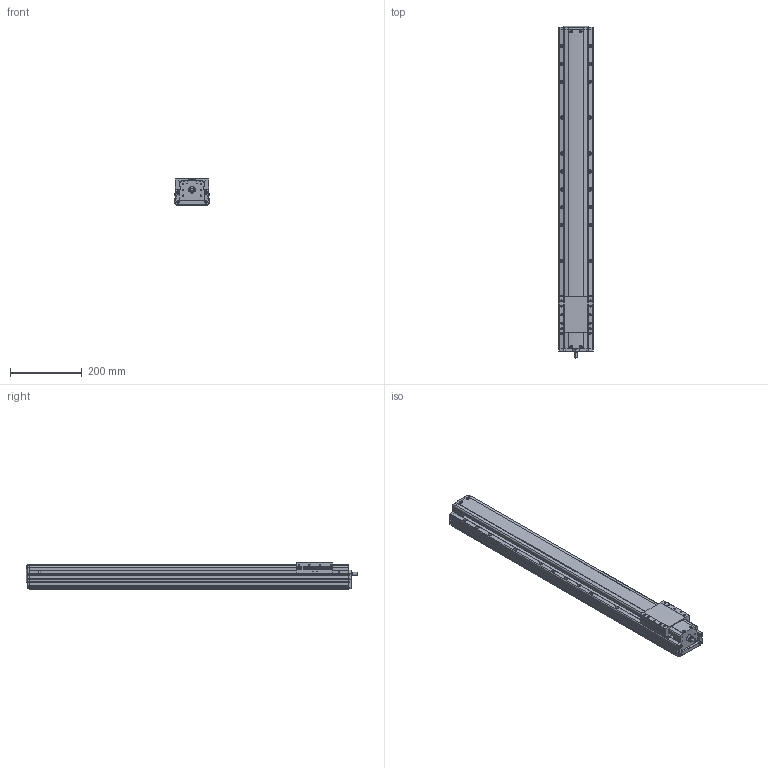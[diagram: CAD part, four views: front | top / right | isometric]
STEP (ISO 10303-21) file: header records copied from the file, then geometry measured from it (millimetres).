
FILE_DESCRIPTION(('STEP AP214'),'1');
FILE_NAME('Z:/Web/3D/PSA95/STP/PSA95-700 (3D)/PSA95ㅁㅁ-700.stp','2014-07-03T00:35:08',(' '),(' '),'Spatial InterOp 3D',' ',' ');
FILE_SCHEMA(('automotive_design'));
Length unit declared in the file: millimetre
Products named in the file (18): BASE; RRCV; 스크루 : Round - M4.0 x 10.0; 너트 : Square - M10.0 x 220.7419; RR1500; FRCV-090; 스크루 : Round - M4.0 x 6.0; SLBL-PA90
Bounding box: 95 x 926 x 74 mm (x, y, z)
Volume: 4847611.1 mm3; surface area: 482307.8 mm2
Topology: 18 solids, 18 shells, 1863 faces, 5042 edges, 3210 vertices
Faces by surface type: plane 1015, cylinder 591, cone 189, sphere 30, bspline 24, torus 14
Entity records: 75507 total; most frequent: CARTESIAN_POINT 13232, DIRECTION 9826, ORIENTED_EDGE 9820, EDGE_CURVE 4910, LINE 3350, VECTOR 3350, AXIS2_PLACEMENT_3D 3238, VERTEX_POINT 3210
